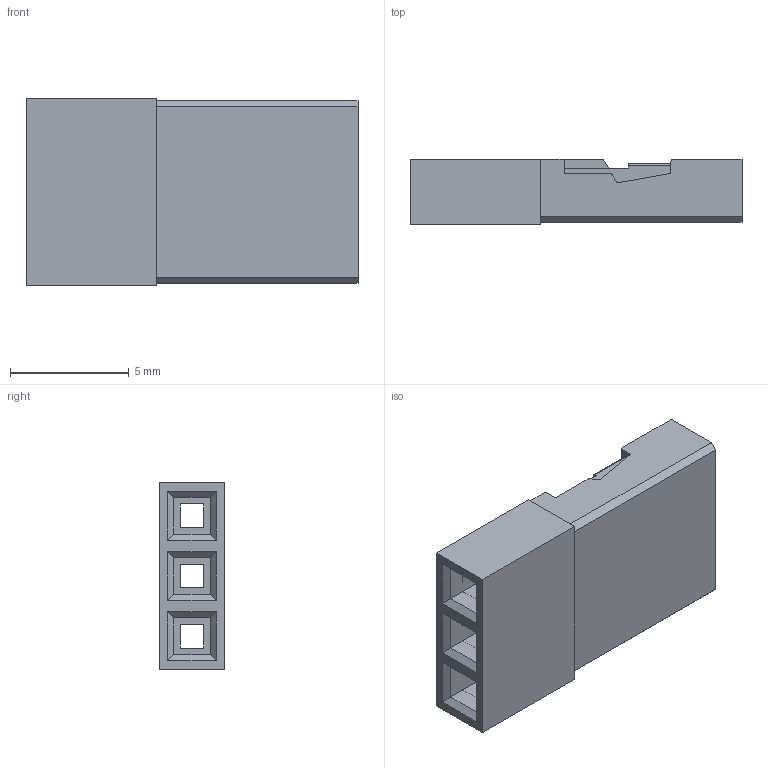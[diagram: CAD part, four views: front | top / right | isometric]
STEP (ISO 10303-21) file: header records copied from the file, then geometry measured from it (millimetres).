
FILE_DESCRIPTION(/* description */ (''),/* implementation_level */ '2;1');
FILE_NAME(/* name */ 'C:\Users\PaulT\Desktop\GrabCAD\JR-3_with_contact.stp',/* time_stamp */ '2019-01-29T14:13:35+01:00',/* author */ ('PaulT'),/* organization */ (''),/* preprocessor_version */ 'ST-DEVELOPER v17.2',/* originating_system */ 'Autodesk Inventor 2019',/* authorisation */ '');
FILE_SCHEMA (('AUTOMOTIVE_DESIGN { 1 0 10303 214 3 1 1 }'));
Length unit declared in the file: millimetre
Products named in the file (3): JR-3_with_contact; JR-3; JWT-CONTACT
Assembly tree (4 placements, depth 2):
  JR-3_with_contact
    JR-3
    JWT-CONTACT  x3
Bounding box: 14 x 2.75 x 7.9 mm (x, y, z)
Volume: 226.8 mm3; surface area: 988.4 mm2
Topology: 4 solids, 4 shells, 147 faces, 396 edges, 254 vertices
Faces by surface type: plane 129, cylinder 18
Entity records: 3692 total; most frequent: CARTESIAN_POINT 632, ORIENTED_EDGE 624, DIRECTION 584, EDGE_CURVE 312, LINE 284, VECTOR 284, VERTEX_POINT 198, AXIS2_PLACEMENT_3D 150
